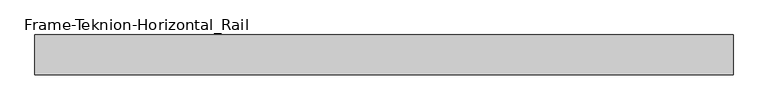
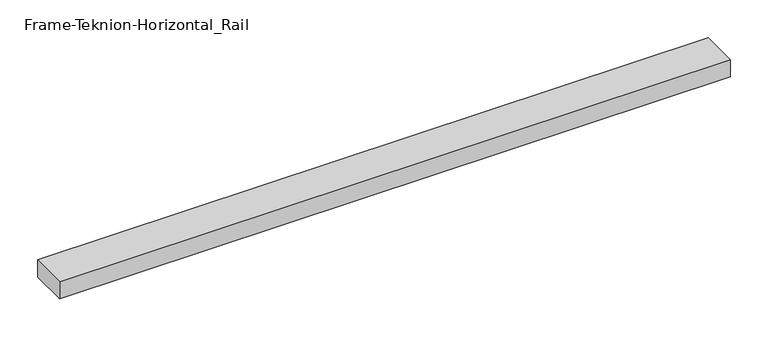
"""IFC4 building model written with IfcOpenShell, lengths in millimetres: proxy geometry, Frame-Teknion-Horizontal_Rail : FPKK."""

from ifc_helpers import new_model, si_unit, frame, origin, place, context, project, spatial, polyline, outline, extrude, source, transform, mapped, element, save


def frame_teknion_horizontal_rail_9f707683(model_context):
    return source(origin(), model_context, "Body", "SweptSolid", [
        extrude(outline(polyline([(-513.0601562, -29.2199219), (-513.0601562, 29.2199219), (513.0601563, 29.2199219), (513.0601563, -29.2199219), (-513.0601562, -29.2199219)])), frame((0.0, 0.0, -13.9898438), z_axis=(0.0, 0.0, 1.0), x_axis=(1.0, 0.0, 0.0)), (0.0, 0.0, 1.0), 27.9796875),
    ])


if __name__ == "__main__":
    model = new_model("IFC4")
    model_context = context("Model", 3, world=origin())
    ifc_project = project(units=[si_unit("LENGTHUNIT", "METRE", prefix="MILLI")], contexts=[model_context])
    site = spatial("IfcSite", under=ifc_project)
    building = spatial("IfcBuilding", under=site)
    placement = place(None, origin())
    frame_teknion_horizontal_rail_shape = frame_teknion_horizontal_rail_9f707683(model_context)
    element("IfcBuildingElementProxy", 1, Name="Frame-Teknion-Horizontal_Rail : FPKK", ObjectType="Frame-Teknion-Horizontal_Rail : FPKK", at=placement, inside=building, context=model_context, shape_type="MappedRepresentation", body=[
        mapped(frame_teknion_horizontal_rail_shape, transform((0.0, 0.0, 0.0), x_axis=(1.0, 0.0, 0.0), y_axis=(0.0, 1.0, 0.0), z_axis=(0.0, 0.0, 1.0))),
    ])
    save(model, "model.ifc")
